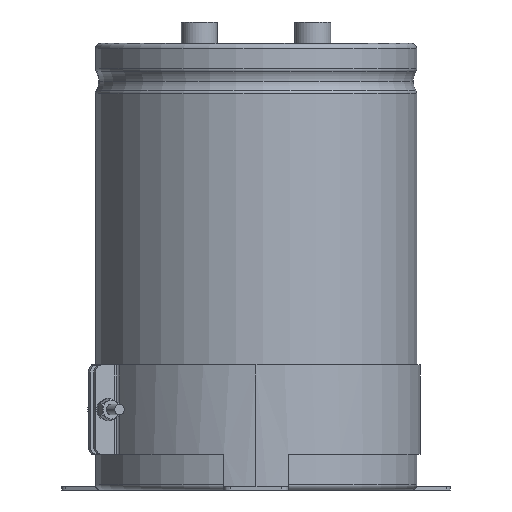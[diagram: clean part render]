
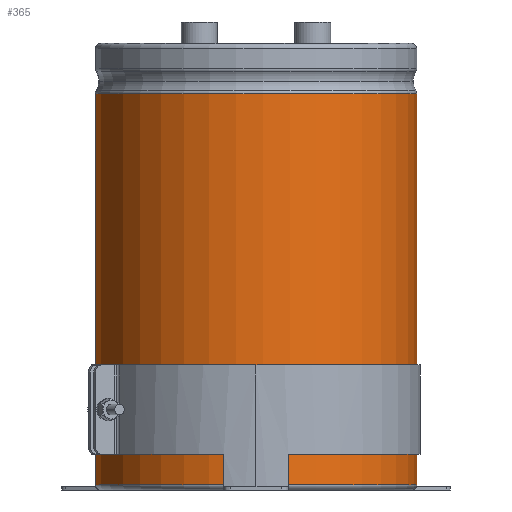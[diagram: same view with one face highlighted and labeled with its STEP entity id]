
A CAD part, left-side view. The second image highlights one B-rep face of the part: STEP entity #365.
In plain terms, the highlighted cylindrical face has radius 45 mm (diameter 90 mm), a partial arc.
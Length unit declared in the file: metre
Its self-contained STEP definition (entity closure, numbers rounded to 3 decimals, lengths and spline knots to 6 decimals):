
#365=ADVANCED_FACE('0:237',(#597),#598,.T.);
#597=FACE_OUTER_BOUND('',#1082,.T.);
#598=CYLINDRICAL_SURFACE('',#1083,0.045);
#1082=EDGE_LOOP('',(#2038,#2039,#2040,#2041));
#1083=AXIS2_PLACEMENT_3D('',#2042,#2043,#2044);
#2038=ORIENTED_EDGE('',*,*,#2995,.T.);
#2039=ORIENTED_EDGE('',*,*,#3004,.T.);
#2040=ORIENTED_EDGE('',*,*,#3006,.T.);
#2041=ORIENTED_EDGE('',*,*,#3007,.F.);
#2042=CARTESIAN_POINT('',(0.0,0.0,0.0));
#2043=DIRECTION('',(-0.0,0.0,1.0));
#2044=DIRECTION('',(0.0,1.0,0.0));
#2995=EDGE_CURVE('',#5626,#5634,#5635,.T.);
#3004=EDGE_CURVE('0:309',#5634,#5645,#5647,.T.);
#3006=EDGE_CURVE('0:312',#5645,#5649,#5650,.T.);
#3007=EDGE_CURVE('0:315',#5626,#5649,#5651,.T.);
#5626=VERTEX_POINT('',#6662);
#5634=VERTEX_POINT('',#6670);
#5635=LINE('',#6671,#6672);
#5645=VERTEX_POINT('',#6683);
#5647=CIRCLE('',#6685,0.045);
#5649=VERTEX_POINT('',#6687);
#5650=LINE('',#6688,#6689);
#5651=CIRCLE('',#6690,0.045);
#6662=CARTESIAN_POINT('',(0.,-0.045,0.0015));
#6670=CARTESIAN_POINT('',(0.,-0.045,0.1109));
#6671=CARTESIAN_POINT('',(0.,-0.045,0.0562));
#6672=VECTOR('',#8209,1.0);
#6683=CARTESIAN_POINT('',(-0.004,0.044822,0.1109));
#6685=AXIS2_PLACEMENT_3D('',#8226,#8227,#8228);
#6687=CARTESIAN_POINT('',(-0.004,0.044822,0.0015));
#6688=CARTESIAN_POINT('',(-0.004,0.044822,0.1109));
#6689=VECTOR('',#8229,0.001);
#6690=AXIS2_PLACEMENT_3D('',#8230,#8231,#8232);
#8209=DIRECTION('',(0.0,0.0,1.0));
#8226=CARTESIAN_POINT('',(0.0,0.0,0.1109));
#8227=DIRECTION('',(0.0,0.0,-1.0));
#8228=DIRECTION('',(0.0,1.0,0.0));
#8229=DIRECTION('',(0.0,0.0,-1.0));
#8230=CARTESIAN_POINT('',(0.0,0.0,0.0015));
#8231=DIRECTION('',(0.0,0.0,-1.0));
#8232=DIRECTION('',(0.0,1.0,0.0));
